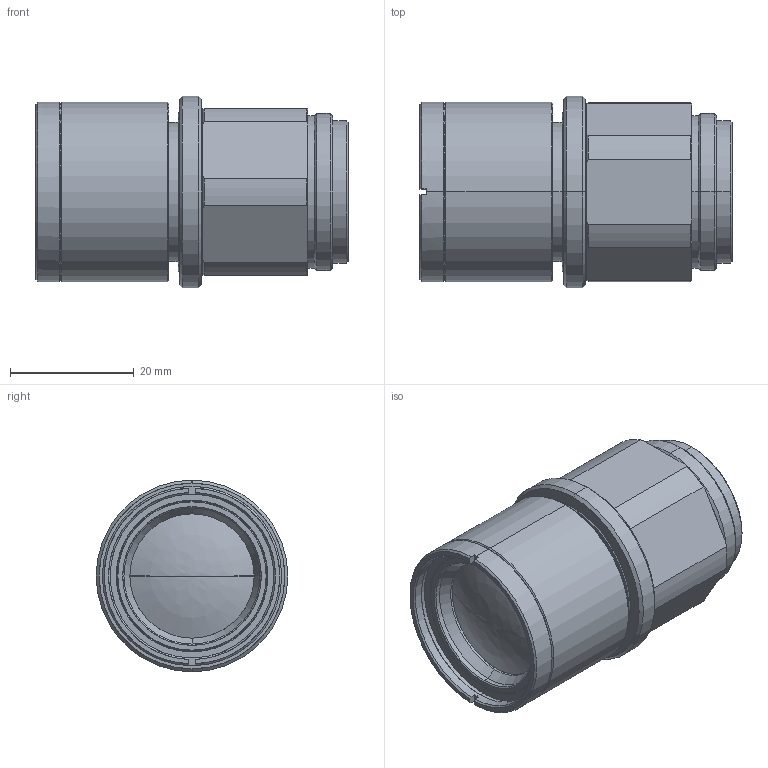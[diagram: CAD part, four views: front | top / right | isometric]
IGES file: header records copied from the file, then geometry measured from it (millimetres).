
Start section: SolidWorks IGES file using analytic representation for surfaces
Global section: file name: C:\Users\tsuji_vst\Documents\【作業フォルダ】\_3D\00 VST\MCA\確認待ち\VS-MCA50\VS-MCA50.IGS; native system: SolidWorks 2017; preprocessor: SolidWorks 2017; author: tsuji_vst; date: 171011.143738; units: millimetre
Bounding box: 50.5 x 31 x 31 mm (x, y, z)
Surface area: 8720.7 mm2 (no closed solid volume)
Topology: 0 solids, 0 shells, 125 faces, 1468 edges, 1466 vertices
Faces by surface type: revolution 98, bspline 27
